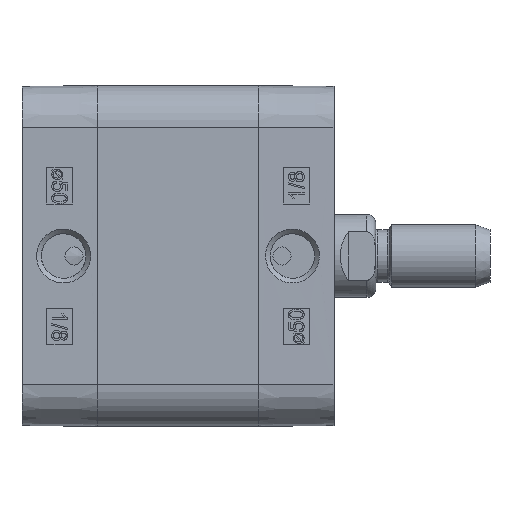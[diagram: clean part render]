
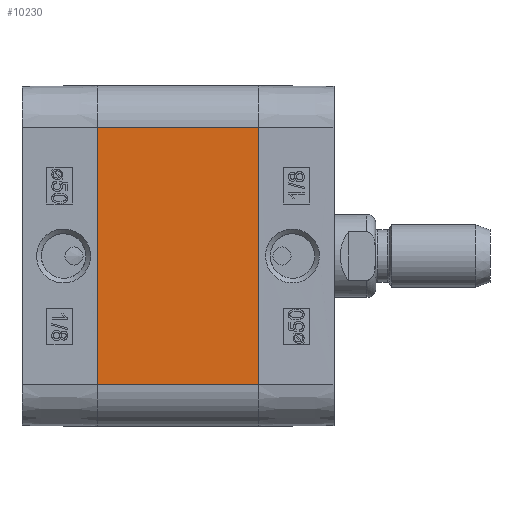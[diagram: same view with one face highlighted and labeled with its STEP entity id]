
A CAD part, left-side view. The second image highlights one B-rep face of the part: STEP entity #10230.
In plain terms, the highlighted planar face has unit normal (-1, 0, 0).
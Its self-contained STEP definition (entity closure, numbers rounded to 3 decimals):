
#5232=CARTESIAN_POINT('',(-32.75,-31.0,24.75));
#5233=VERTEX_POINT('',#5232);
#5240=CARTESIAN_POINT('',(-32.75,-31.0,-24.75));
#5241=VERTEX_POINT('',#5240);
#5242=CARTESIAN_POINT('',(-32.75,-31.0,-24.75));
#5243=DIRECTION('',(0.0,0.0,1.0));
#5244=VECTOR('',#5243,49.5);
#5245=LINE('',#5242,#5244);
#5246=EDGE_CURVE('',#5241,#5233,#5245,.T.);
#10188=CARTESIAN_POINT('',(-32.75,0.0,-24.75));
#10189=VERTEX_POINT('',#10188);
#10190=CARTESIAN_POINT('',(-32.75,0.0,-24.75));
#10191=DIRECTION('',(0.0,-1.0,0.0));
#10192=VECTOR('',#10191,31.0);
#10193=LINE('',#10190,#10192);
#10194=EDGE_CURVE('',#10189,#5241,#10193,.T.);
#10207=CARTESIAN_POINT('',(-32.75,0.0,-24.75));
#10208=DIRECTION('',(-1.0,0.0,0.0));
#10209=DIRECTION('',(0.0,0.0,1.0));
#10210=AXIS2_PLACEMENT_3D('',#10207,#10208,#10209);
#10211=PLANE('',#10210);
#10212=ORIENTED_EDGE('',*,*,#5246,.T.);
#10213=CARTESIAN_POINT('',(-32.75,0.0,24.75));
#10214=VERTEX_POINT('',#10213);
#10215=CARTESIAN_POINT('',(-32.75,0.0,24.75));
#10216=DIRECTION('',(0.0,-1.0,0.0));
#10217=VECTOR('',#10216,31.0);
#10218=LINE('',#10215,#10217);
#10219=EDGE_CURVE('',#10214,#5233,#10218,.T.);
#10220=ORIENTED_EDGE('',*,*,#10219,.F.);
#10221=CARTESIAN_POINT('',(-32.75,0.0,-24.75));
#10222=DIRECTION('',(0.0,0.0,1.0));
#10223=VECTOR('',#10222,49.5);
#10224=LINE('',#10221,#10223);
#10225=EDGE_CURVE('',#10189,#10214,#10224,.T.);
#10226=ORIENTED_EDGE('',*,*,#10225,.F.);
#10227=ORIENTED_EDGE('',*,*,#10194,.T.);
#10228=EDGE_LOOP('',(#10212,#10220,#10226,#10227));
#10229=FACE_OUTER_BOUND('',#10228,.T.);
#10230=ADVANCED_FACE('',(#10229),#10211,.T.);
